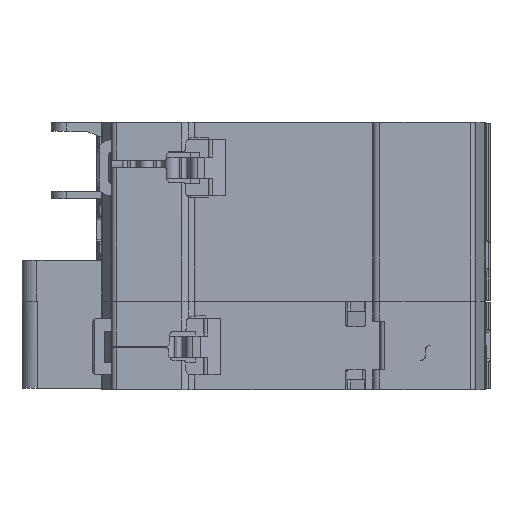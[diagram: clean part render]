
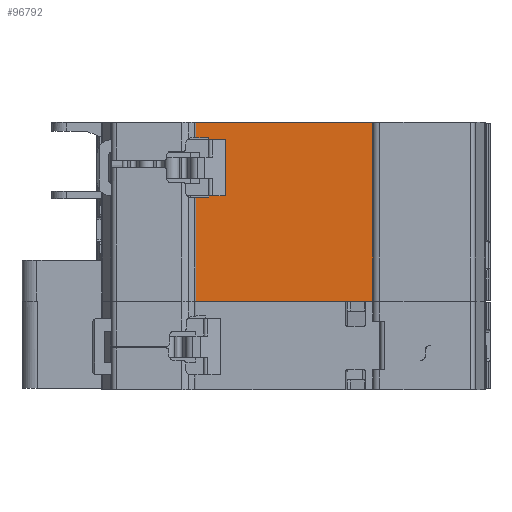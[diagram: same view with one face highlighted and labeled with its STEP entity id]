
A CAD part, front view. The second image highlights one B-rep face of the part: STEP entity #96792.
In plain terms, the highlighted planar face has unit normal (0, -1, 0).
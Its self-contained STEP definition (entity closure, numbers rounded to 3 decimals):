
#11296=DIRECTION('',(0.,0.,1.));
#11297=VECTOR('',#11296,35.9);
#11298=CARTESIAN_POINT('',(39.8,-37.,-14.4));
#11299=LINE('',#11298,#11297);
#11308=DIRECTION('',(1.,0.,0.));
#11309=VECTOR('',#11308,0.508);
#11310=CARTESIAN_POINT('',(5.4,-37.,18.05));
#11311=LINE('',#11310,#11309);
#11312=DIRECTION('',(-1.,0.,0.));
#11313=VECTOR('',#11312,2.6);
#11314=CARTESIAN_POINT('',(5.4,-37.,18.4));
#11315=LINE('',#11314,#11313);
#11316=DIRECTION('',(0.,0.,1.));
#11317=VECTOR('',#11316,3.1);
#11318=CARTESIAN_POINT('',(2.8,-37.,18.4));
#11319=LINE('',#11318,#11317);
#11320=DIRECTION('',(1.,0.,0.));
#11321=VECTOR('',#11320,37.);
#11322=CARTESIAN_POINT('',(2.8,-37.,21.5));
#11323=LINE('',#11322,#11321);
#11324=DIRECTION('',(-1.,0.,0.));
#11325=VECTOR('',#11324,37.);
#11326=CARTESIAN_POINT('',(39.8,-37.,-14.4));
#11327=LINE('',#11326,#11325);
#11328=DIRECTION('',(1.,0.,0.));
#11329=VECTOR('',#11328,0.508);
#11330=CARTESIAN_POINT('',(5.4,-37.,6.75));
#11331=LINE('',#11330,#11329);
#11332=DIRECTION('',(0.,0.,-1.));
#11333=VECTOR('',#11332,11.3);
#11334=CARTESIAN_POINT('',(5.908,-37.,18.05));
#11335=LINE('',#11334,#11333);
#11426=DIRECTION('',(0.,0.,-1.));
#11427=VECTOR('',#11426,0.35);
#11428=CARTESIAN_POINT('',(5.4,-37.,6.75));
#11429=LINE('',#11428,#11427);
#11442=DIRECTION('',(-1.,0.,0.));
#11443=VECTOR('',#11442,2.6);
#11444=CARTESIAN_POINT('',(5.4,-37.,6.4));
#11445=LINE('',#11444,#11443);
#11820=DIRECTION('',(0.,0.,-1.));
#11821=VECTOR('',#11820,0.35);
#11822=CARTESIAN_POINT('',(5.4,-37.,18.4));
#11823=LINE('',#11822,#11821);
#12747=DIRECTION('',(0.,0.,-1.));
#12748=VECTOR('',#12747,20.8);
#12749=CARTESIAN_POINT('',(2.8,-37.,6.4));
#12750=LINE('',#12749,#12748);
#65731=CARTESIAN_POINT('',(2.8,-37.,-14.4));
#65732=VERTEX_POINT('',#65731);
#65733=CARTESIAN_POINT('',(39.8,-37.,-14.4));
#65734=VERTEX_POINT('',#65733);
#68037=CARTESIAN_POINT('',(5.4,-37.,6.4));
#68038=CARTESIAN_POINT('',(2.8,-37.,6.4));
#68039=VERTEX_POINT('',#68037);
#68040=VERTEX_POINT('',#68038);
#69657=CARTESIAN_POINT('',(39.8,-37.,21.5));
#69658=VERTEX_POINT('',#69657);
#69659=CARTESIAN_POINT('',(2.8,-37.,21.5));
#69660=VERTEX_POINT('',#69659);
#69775=CARTESIAN_POINT('',(2.8,-37.,18.4));
#69776=VERTEX_POINT('',#69775);
#69777=CARTESIAN_POINT('',(5.4,-37.,18.4));
#69778=VERTEX_POINT('',#69777);
#72773=CARTESIAN_POINT('',(5.4,-37.,18.05));
#72774=CARTESIAN_POINT('',(5.908,-37.,18.05));
#72775=VERTEX_POINT('',#72773);
#72776=VERTEX_POINT('',#72774);
#72777=CARTESIAN_POINT('',(5.4,-37.,6.75));
#72778=CARTESIAN_POINT('',(5.908,-37.,6.75));
#72779=VERTEX_POINT('',#72777);
#72780=VERTEX_POINT('',#72778);
#96763=CARTESIAN_POINT('',(2.8,-37.,0.));
#96764=DIRECTION('',(0.,-1.,0.));
#96765=DIRECTION('',(1.,0.,0.));
#96766=AXIS2_PLACEMENT_3D('',#96763,#96764,#96765);
#96767=PLANE('',#96766);
#96769=ORIENTED_EDGE('',*,*,#96768,.F.);
#96771=ORIENTED_EDGE('',*,*,#96770,.F.);
#96773=ORIENTED_EDGE('',*,*,#96772,.T.);
#96775=ORIENTED_EDGE('',*,*,#96774,.T.);
#96777=ORIENTED_EDGE('',*,*,#96776,.T.);
#96778=ORIENTED_EDGE('',*,*,#96754,.F.);
#96779=ORIENTED_EDGE('',*,*,#95642,.T.);
#96781=ORIENTED_EDGE('',*,*,#96780,.F.);
#96783=ORIENTED_EDGE('',*,*,#96782,.F.);
#96785=ORIENTED_EDGE('',*,*,#96784,.F.);
#96787=ORIENTED_EDGE('',*,*,#96786,.T.);
#96789=ORIENTED_EDGE('',*,*,#96788,.F.);
#96790=EDGE_LOOP('',(#96769,#96771,#96773,#96775,#96777,#96778,#96779,#96781,
#96783,#96785,#96787,#96789));
#96791=FACE_OUTER_BOUND('',#96790,.F.);
#96792=ADVANCED_FACE('',(#96791),#96767,.T.);
#95642=EDGE_CURVE('',#65734,#65732,#11327,.T.);
#96754=EDGE_CURVE('',#65734,#69658,#11299,.T.);
#96768=EDGE_CURVE('',#72775,#72776,#11311,.T.);
#96770=EDGE_CURVE('',#69778,#72775,#11823,.T.);
#96772=EDGE_CURVE('',#69778,#69776,#11315,.T.);
#96774=EDGE_CURVE('',#69776,#69660,#11319,.T.);
#96776=EDGE_CURVE('',#69660,#69658,#11323,.T.);
#96780=EDGE_CURVE('',#68040,#65732,#12750,.T.);
#96782=EDGE_CURVE('',#68039,#68040,#11445,.T.);
#96784=EDGE_CURVE('',#72779,#68039,#11429,.T.);
#96786=EDGE_CURVE('',#72779,#72780,#11331,.T.);
#96788=EDGE_CURVE('',#72776,#72780,#11335,.T.);
